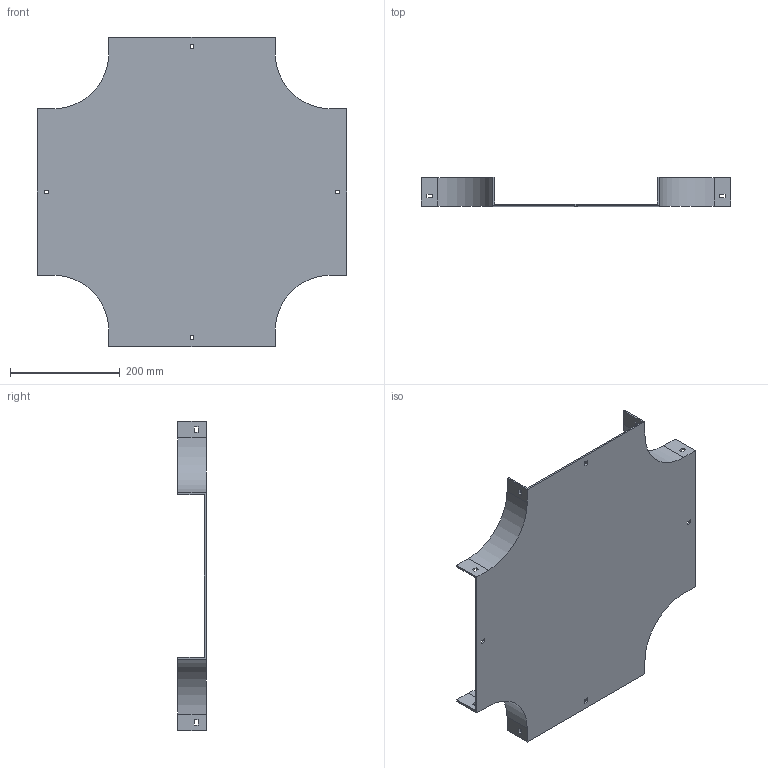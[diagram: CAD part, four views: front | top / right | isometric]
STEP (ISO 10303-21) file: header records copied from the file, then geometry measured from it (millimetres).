
FILE_DESCRIPTION (( 'STEP AP214' ), '1' );
FILE_NAME ('17F1B300.step', '2025-02-21T13:05:47', ( '' ), ( '' ), 'SwSTEP 2.0', 'SolidWorks 2023', '' );
FILE_SCHEMA (( 'AUTOMOTIVE_DESIGN' ));
Length unit declared in the file: millimetre
Products named in the file (1): 17F1B300
Bounding box: 564 x 52 x 564 mm (x, y, z)
Volume: 1053264.8 mm3; surface area: 611904.7 mm2
Topology: 1 solids, 1 shells, 82 faces, 240 edges, 160 vertices
Faces by surface type: plane 74, cylinder 8
Entity records: 2751 total; most frequent: CARTESIAN_POINT 483, ORIENTED_EDGE 480, DIRECTION 422, EDGE_CURVE 240, VECTOR 224, LINE 224, VERTEX_POINT 160, EDGE_LOOP 106
